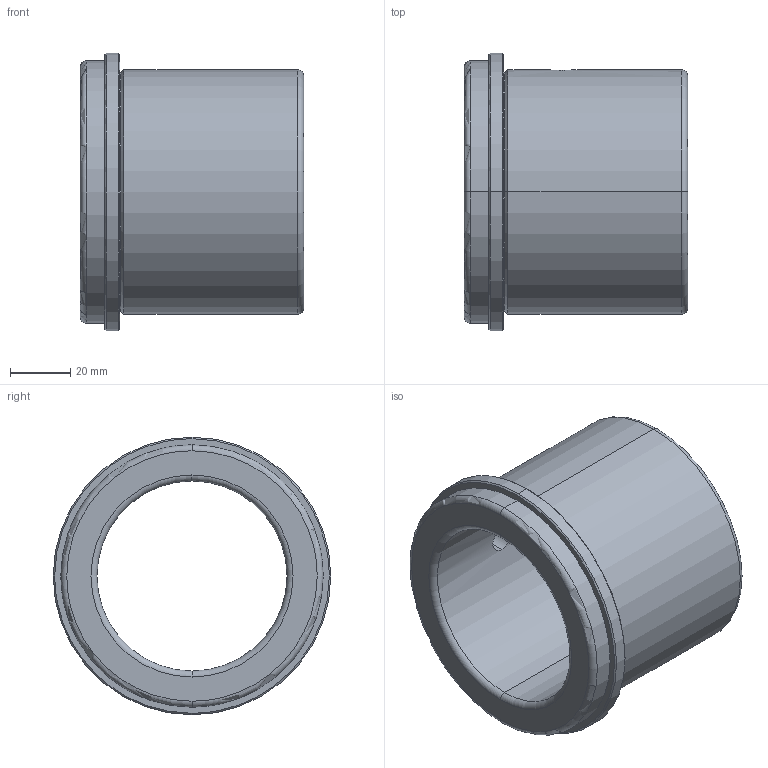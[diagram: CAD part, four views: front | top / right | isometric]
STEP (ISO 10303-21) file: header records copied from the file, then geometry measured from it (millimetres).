
FILE_DESCRIPTION(('CATIA V5 STEP Exchange'),'2;1');
FILE_NAME('C:\Users\Utente\Desktop\IO LAVORO\3D X SITO CF\X SITO\FAMO\FAMO-SF1-A63 x 74.stp','2021-01-06T17:14:13+00:00',('none'),('none'),'CATIA Version 5 Release 20 GA (IN-10)','CATIA V5 STEP AP203','none');
FILE_SCHEMA(('CONFIG_CONTROL_DESIGN'));
Length unit declared in the file: millimetre
Products named in the file (1): FAMO-SF1-A63 x 74
Bounding box: 74 x 92 x 92 mm (x, y, z)
Volume: 162416.6 mm3; surface area: 40730.1 mm2
Topology: 1 solids, 1 shells, 33 faces, 113 edges, 85 vertices
Faces by surface type: cylinder 12, torus 8, cone 8, plane 5
Entity records: 1555 total; most frequent: CARTESIAN_POINT 542, ORIENTED_EDGE 226, DIRECTION 157, EDGE_CURVE 113, AXIS2_PLACEMENT_3D 105, VERTEX_POINT 85, CIRCLE 71, EDGE_LOOP 40
